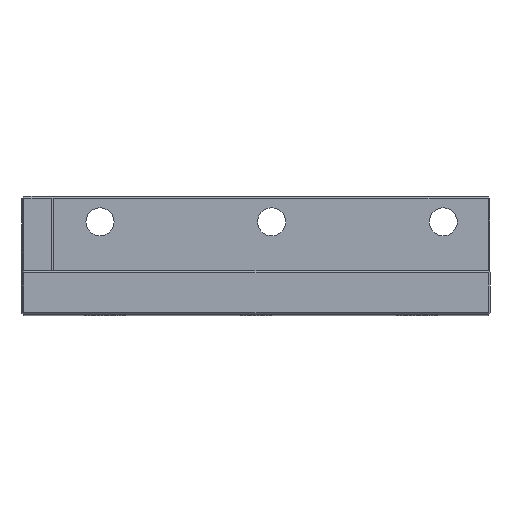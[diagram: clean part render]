
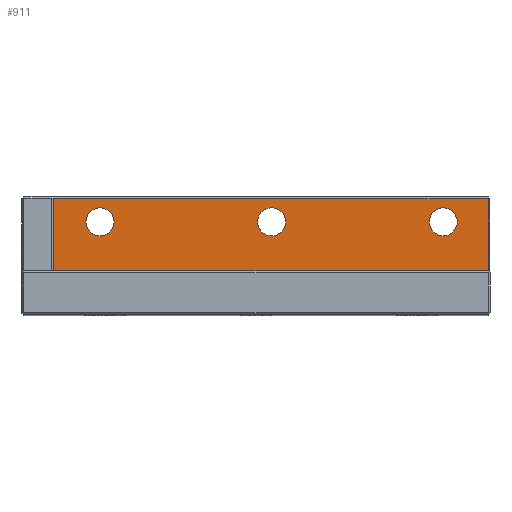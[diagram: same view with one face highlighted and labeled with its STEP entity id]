
A CAD part, top view. The second image highlights one B-rep face of the part: STEP entity #911.
In plain terms, the highlighted planar face has unit normal (0, 0, 1).
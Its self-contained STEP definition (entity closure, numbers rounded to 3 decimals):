
#2 = DIRECTION ( 'NONE',  ( 1., 0., 0. ) ) ;
#7 = FACE_OUTER_BOUND ( 'NONE', #1720, .T. ) ;
#17 = DIRECTION ( 'NONE',  ( 1., 0., 0. ) ) ;
#32 = EDGE_LOOP ( 'NONE', ( #316, #439 ) ) ;
#68 = ORIENTED_EDGE ( 'NONE', *, *, #546, .F. ) ;
#75 = VECTOR ( 'NONE', #1499, 1000. ) ;
#118 = CARTESIAN_POINT ( 'NONE',  ( -32.5, 18.7, -38. ) ) ;
#138 = CARTESIAN_POINT ( 'NONE',  ( 30., 15., -38. ) ) ;
#147 = CARTESIAN_POINT ( 'NONE',  ( -25., 15., -38. ) ) ;
#213 = DIRECTION ( 'NONE',  ( 0., -1., 0. ) ) ;
#222 = AXIS2_PLACEMENT_3D ( 'NONE', #1191, #919, #533 ) ;
#272 = DIRECTION ( 'NONE',  ( 0., 0., 1. ) ) ;
#296 = CARTESIAN_POINT ( 'NONE',  ( 4.75, 15., -38. ) ) ;
#298 = DIRECTION ( 'NONE',  ( 0., 0., -1. ) ) ;
#300 = DIRECTION ( 'NONE',  ( 0., 0., 1. ) ) ;
#316 = ORIENTED_EDGE ( 'NONE', *, *, #500, .F. ) ;
#317 = CARTESIAN_POINT ( 'NONE',  ( 32.25, 15., -38. ) ) ;
#318 = EDGE_CURVE ( 'NONE', #1345, #1188, #1024, .T. ) ;
#337 = EDGE_CURVE ( 'NONE', #1110, #1536, #1314, .T. ) ;
#342 = CARTESIAN_POINT ( 'NONE',  ( 27.75, 15., -38. ) ) ;
#368 = CARTESIAN_POINT ( 'NONE',  ( 37.2, 7., -38. ) ) ;
#369 = EDGE_CURVE ( 'NONE', #726, #833, #1723, .T. ) ;
#417 = ORIENTED_EDGE ( 'NONE', *, *, #318, .F. ) ;
#439 = ORIENTED_EDGE ( 'NONE', *, *, #527, .F. ) ;
#458 = DIRECTION ( 'NONE',  ( 0., 0., 1. ) ) ;
#464 = DIRECTION ( 'NONE',  ( 1., 0., 0. ) ) ;
#480 = AXIS2_PLACEMENT_3D ( 'NONE', #556, #298, #1103 ) ;
#500 = EDGE_CURVE ( 'NONE', #1012, #1040, #1440, .T. ) ;
#504 = DIRECTION ( 'NONE',  ( 0., 1., 0. ) ) ;
#514 = ORIENTED_EDGE ( 'NONE', *, *, #1739, .T. ) ;
#527 = EDGE_CURVE ( 'NONE', #1040, #1012, #815, .T. ) ;
#533 = DIRECTION ( 'NONE',  ( 1., 0., 0. ) ) ;
#546 = EDGE_CURVE ( 'NONE', #1047, #1711, #674, .T. ) ;
#556 = CARTESIAN_POINT ( 'NONE',  ( -37.5, 19., -38. ) ) ;
#592 = AXIS2_PLACEMENT_3D ( 'NONE', #1542, #458, #464 ) ;
#648 = AXIS2_PLACEMENT_3D ( 'NONE', #138, #272, #17 ) ;
#657 = ORIENTED_EDGE ( 'NONE', *, *, #1380, .F. ) ;
#674 = CIRCLE ( 'NONE', #1019, 2.25 ) ;
#681 = DIRECTION ( 'NONE',  ( 0., 0., 1. ) ) ;
#688 = FACE_BOUND ( 'NONE', #1524, .T. ) ;
#699 = CARTESIAN_POINT ( 'NONE',  ( -25., 15., -38. ) ) ;
#726 = VERTEX_POINT ( 'NONE', #1703 ) ;
#749 = LINE ( 'NONE', #1293, #878 ) ;
#815 = CIRCLE ( 'NONE', #1580, 2.25 ) ;
#833 = VERTEX_POINT ( 'NONE', #1502 ) ;
#844 = ORIENTED_EDGE ( 'NONE', *, *, #369, .T. ) ;
#878 = VECTOR ( 'NONE', #1597, 1000. ) ;
#903 = CARTESIAN_POINT ( 'NONE',  ( 37.2, 18.7, -38. ) ) ;
#911 = ADVANCED_FACE ( 'NONE', ( #1354, #1626, #688, #7 ), #972, .F. ) ;
#919 = DIRECTION ( 'NONE',  ( 0., 0., 1. ) ) ;
#920 = CARTESIAN_POINT ( 'NONE',  ( -27.25, 15., -38. ) ) ;
#938 = CARTESIAN_POINT ( 'NONE',  ( 30., 15., -38. ) ) ;
#940 = EDGE_CURVE ( 'NONE', #1188, #1345, #1361, .T. ) ;
#972 = PLANE ( 'NONE',  #480 ) ;
#973 = ORIENTED_EDGE ( 'NONE', *, *, #940, .F. ) ;
#977 = DIRECTION ( 'NONE',  ( 1., 0., 0. ) ) ;
#1012 = VERTEX_POINT ( 'NONE', #317 ) ;
#1019 = AXIS2_PLACEMENT_3D ( 'NONE', #147, #300, #1479 ) ;
#1024 = CIRCLE ( 'NONE', #222, 2.25 ) ;
#1040 = VERTEX_POINT ( 'NONE', #342 ) ;
#1047 = VERTEX_POINT ( 'NONE', #1674 ) ;
#1057 = AXIS2_PLACEMENT_3D ( 'NONE', #699, #1379, #977 ) ;
#1103 = DIRECTION ( 'NONE',  ( -1., 0., 0. ) ) ;
#1110 = VERTEX_POINT ( 'NONE', #368 ) ;
#1112 = CIRCLE ( 'NONE', #1057, 2.25 ) ;
#1183 = CARTESIAN_POINT ( 'NONE',  ( -32.5, 54.355, -38. ) ) ;
#1188 = VERTEX_POINT ( 'NONE', #1599 ) ;
#1191 = CARTESIAN_POINT ( 'NONE',  ( 2.5, 15., -38. ) ) ;
#1222 = ORIENTED_EDGE ( 'NONE', *, *, #337, .T. ) ;
#1251 = EDGE_CURVE ( 'NONE', #1536, #726, #1756, .T. ) ;
#1293 = CARTESIAN_POINT ( 'NONE',  ( -37.5, 7., -38. ) ) ;
#1314 = LINE ( 'NONE', #1333, #1365 ) ;
#1333 = CARTESIAN_POINT ( 'NONE',  ( 37.2, 19., -38. ) ) ;
#1345 = VERTEX_POINT ( 'NONE', #296 ) ;
#1354 = FACE_BOUND ( 'NONE', #1405, .T. ) ;
#1361 = CIRCLE ( 'NONE', #592, 2.25 ) ;
#1365 = VECTOR ( 'NONE', #504, 1000. ) ;
#1379 = DIRECTION ( 'NONE',  ( 0., 0., 1. ) ) ;
#1380 = EDGE_CURVE ( 'NONE', #1711, #1047, #1112, .T. ) ;
#1405 = EDGE_LOOP ( 'NONE', ( #68, #657 ) ) ;
#1419 = VECTOR ( 'NONE', #213, 1000. ) ;
#1440 = CIRCLE ( 'NONE', #648, 2.25 ) ;
#1479 = DIRECTION ( 'NONE',  ( 1., 0., 0. ) ) ;
#1480 = ORIENTED_EDGE ( 'NONE', *, *, #1251, .T. ) ;
#1499 = DIRECTION ( 'NONE',  ( -1., 0., 0. ) ) ;
#1502 = CARTESIAN_POINT ( 'NONE',  ( -32.5, 7., -38. ) ) ;
#1524 = EDGE_LOOP ( 'NONE', ( #417, #973 ) ) ;
#1536 = VERTEX_POINT ( 'NONE', #903 ) ;
#1542 = CARTESIAN_POINT ( 'NONE',  ( 2.5, 15., -38. ) ) ;
#1580 = AXIS2_PLACEMENT_3D ( 'NONE', #938, #681, #2 ) ;
#1597 = DIRECTION ( 'NONE',  ( 1., 0., 0. ) ) ;
#1599 = CARTESIAN_POINT ( 'NONE',  ( 0.25, 15., -38. ) ) ;
#1626 = FACE_BOUND ( 'NONE', #32, .T. ) ;
#1674 = CARTESIAN_POINT ( 'NONE',  ( -22.75, 15., -38. ) ) ;
#1703 = CARTESIAN_POINT ( 'NONE',  ( -32.5, 18.7, -38. ) ) ;
#1711 = VERTEX_POINT ( 'NONE', #920 ) ;
#1720 = EDGE_LOOP ( 'NONE', ( #514, #1222, #1480, #844 ) ) ;
#1723 = LINE ( 'NONE', #1183, #1419 ) ;
#1739 = EDGE_CURVE ( 'NONE', #833, #1110, #749, .T. ) ;
#1756 = LINE ( 'NONE', #118, #75 ) ;
